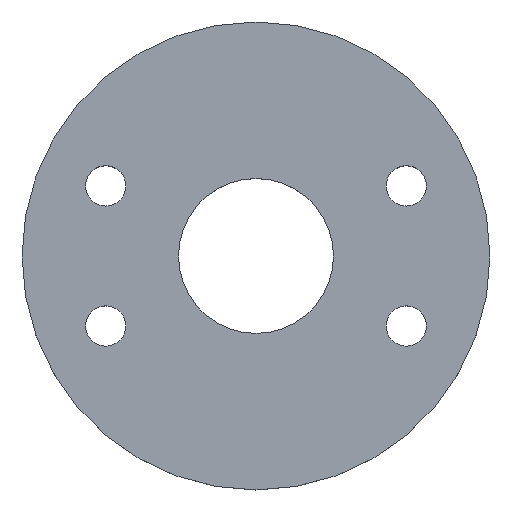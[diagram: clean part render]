
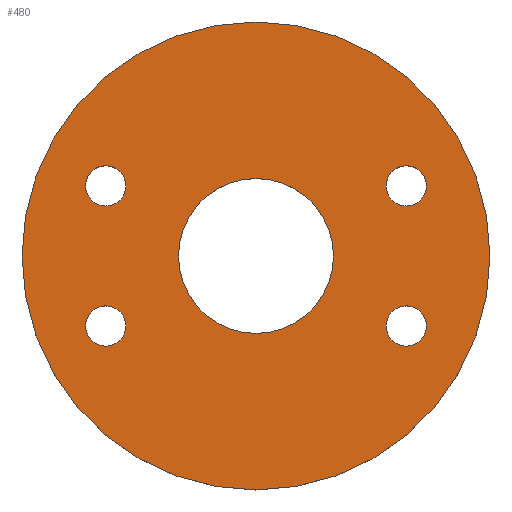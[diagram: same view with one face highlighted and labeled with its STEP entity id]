
A CAD part, top view. The second image highlights one B-rep face of the part: STEP entity #480.
In plain terms, the highlighted planar face has unit normal (0, 0, 1).
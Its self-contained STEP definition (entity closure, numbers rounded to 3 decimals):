
#4 = ORIENTED_EDGE ( 'NONE', *, *, #77, .F. ) ;
#9 = DIRECTION ( 'NONE',  ( 0., 0., 1. ) ) ;
#10 = CARTESIAN_POINT ( 'NONE',  ( -48.487, -22.61, 5. ) ) ;
#13 = EDGE_CURVE ( 'NONE', #504, #38, #376, .T. ) ;
#14 = DIRECTION ( 'NONE',  ( 0., 0., 1. ) ) ;
#17 = DIRECTION ( 'NONE',  ( 0., 0., 1. ) ) ;
#18 = ORIENTED_EDGE ( 'NONE', *, *, #140, .F. ) ;
#21 = DIRECTION ( 'NONE',  ( 0., 0., 1. ) ) ;
#24 = CARTESIAN_POINT ( 'NONE',  ( 0., 0., 5. ) ) ;
#33 = CIRCLE ( 'NONE', #174, 25. ) ;
#34 = ORIENTED_EDGE ( 'NONE', *, *, #477, .F. ) ;
#38 = VERTEX_POINT ( 'NONE', #441 ) ;
#41 = FACE_BOUND ( 'NONE', #207, .T. ) ;
#42 = CIRCLE ( 'NONE', #117, 6.5 ) ;
#46 = CARTESIAN_POINT ( 'NONE',  ( 25., 0., 5. ) ) ;
#50 = CARTESIAN_POINT ( 'NONE',  ( 0., 0., 5. ) ) ;
#52 = ORIENTED_EDGE ( 'NONE', *, *, #13, .F. ) ;
#55 = CIRCLE ( 'NONE', #332, 25. ) ;
#56 = CARTESIAN_POINT ( 'NONE',  ( -48.487, -22.61, 5. ) ) ;
#61 = DIRECTION ( 'NONE',  ( 1., 0., 0. ) ) ;
#64 = ORIENTED_EDGE ( 'NONE', *, *, #307, .F. ) ;
#65 = ORIENTED_EDGE ( 'NONE', *, *, #509, .F. ) ;
#67 = FACE_BOUND ( 'NONE', #326, .T. ) ;
#68 = EDGE_CURVE ( 'NONE', #272, #275, #260, .T. ) ;
#69 = CARTESIAN_POINT ( 'NONE',  ( -54.987, -22.61, 5. ) ) ;
#77 = EDGE_CURVE ( 'NONE', #335, #308, #42, .T. ) ;
#81 = DIRECTION ( 'NONE',  ( 0., 0., 1. ) ) ;
#91 = CARTESIAN_POINT ( 'NONE',  ( 0., 0., 5. ) ) ;
#96 = CIRCLE ( 'NONE', #253, 6.5 ) ;
#107 = DIRECTION ( 'NONE',  ( 1., 0., 0. ) ) ;
#114 = CIRCLE ( 'NONE', #386, 6.5 ) ;
#117 = AXIS2_PLACEMENT_3D ( 'NONE', #175, #21, #357 ) ;
#119 = VERTEX_POINT ( 'NONE', #313 ) ;
#120 = CARTESIAN_POINT ( 'NONE',  ( -48.487, 22.61, 5. ) ) ;
#123 = DIRECTION ( 'NONE',  ( 0., 0., 1. ) ) ;
#128 = AXIS2_PLACEMENT_3D ( 'NONE', #91, #14, #107 ) ;
#140 = EDGE_CURVE ( 'NONE', #381, #388, #33, .T. ) ;
#147 = CARTESIAN_POINT ( 'NONE',  ( 48.487, 22.61, 5. ) ) ;
#154 = FACE_OUTER_BOUND ( 'NONE', #291, .T. ) ;
#164 = DIRECTION ( 'NONE',  ( 1., 0., 0. ) ) ;
#173 = CARTESIAN_POINT ( 'NONE',  ( 0., 0., 5. ) ) ;
#174 = AXIS2_PLACEMENT_3D ( 'NONE', #24, #330, #525 ) ;
#175 = CARTESIAN_POINT ( 'NONE',  ( -48.487, 22.61, 5. ) ) ;
#180 = DIRECTION ( 'NONE',  ( 0., 0., 1. ) ) ;
#181 = FACE_BOUND ( 'NONE', #301, .T. ) ;
#187 = CARTESIAN_POINT ( 'NONE',  ( -75.5, 0., 5. ) ) ;
#193 = CARTESIAN_POINT ( 'NONE',  ( 48.487, -22.61, 5. ) ) ;
#197 = DIRECTION ( 'NONE',  ( -1., 0., 0. ) ) ;
#203 = VERTEX_POINT ( 'NONE', #370 ) ;
#207 = EDGE_LOOP ( 'NONE', ( #18, #474 ) ) ;
#209 = CARTESIAN_POINT ( 'NONE',  ( 0., 0., 5. ) ) ;
#218 = DIRECTION ( 'NONE',  ( 1., 0., 0. ) ) ;
#232 = DIRECTION ( 'NONE',  ( -1., 0., 0. ) ) ;
#240 = CARTESIAN_POINT ( 'NONE',  ( -25., 0., 5. ) ) ;
#244 = AXIS2_PLACEMENT_3D ( 'NONE', #10, #417, #471 ) ;
#253 = AXIS2_PLACEMENT_3D ( 'NONE', #193, #180, #232 ) ;
#258 = AXIS2_PLACEMENT_3D ( 'NONE', #369, #396, #197 ) ;
#260 = CIRCLE ( 'NONE', #128, 75.5 ) ;
#272 = VERTEX_POINT ( 'NONE', #187 ) ;
#275 = VERTEX_POINT ( 'NONE', #328 ) ;
#277 = FACE_BOUND ( 'NONE', #520, .T. ) ;
#281 = EDGE_CURVE ( 'NONE', #119, #203, #114, .T. ) ;
#282 = EDGE_LOOP ( 'NONE', ( #429, #410 ) ) ;
#291 = EDGE_LOOP ( 'NONE', ( #387, #540 ) ) ;
#294 = EDGE_CURVE ( 'NONE', #433, #455, #96, .T. ) ;
#301 = EDGE_LOOP ( 'NONE', ( #4, #34 ) ) ;
#307 = EDGE_CURVE ( 'NONE', #38, #504, #411, .T. ) ;
#308 = VERTEX_POINT ( 'NONE', #444 ) ;
#309 = PLANE ( 'NONE',  #404 ) ;
#313 = CARTESIAN_POINT ( 'NONE',  ( 41.987, 22.61, 5. ) ) ;
#316 = CARTESIAN_POINT ( 'NONE',  ( 48.487, 22.61, 5. ) ) ;
#320 = EDGE_CURVE ( 'NONE', #275, #272, #538, .T. ) ;
#326 = EDGE_LOOP ( 'NONE', ( #65, #424 ) ) ;
#328 = CARTESIAN_POINT ( 'NONE',  ( 75.5, 0., 5. ) ) ;
#330 = DIRECTION ( 'NONE',  ( 0., 0., 1. ) ) ;
#332 = AXIS2_PLACEMENT_3D ( 'NONE', #209, #543, #218 ) ;
#335 = VERTEX_POINT ( 'NONE', #448 ) ;
#339 = DIRECTION ( 'NONE',  ( 0., 0., 1. ) ) ;
#343 = AXIS2_PLACEMENT_3D ( 'NONE', #316, #81, #164 ) ;
#346 = CIRCLE ( 'NONE', #343, 6.5 ) ;
#356 = DIRECTION ( 'NONE',  ( 1., 0., 0. ) ) ;
#357 = DIRECTION ( 'NONE',  ( -1., 0., 0. ) ) ;
#369 = CARTESIAN_POINT ( 'NONE',  ( 48.487, -22.61, 5. ) ) ;
#370 = CARTESIAN_POINT ( 'NONE',  ( 54.987, 22.61, 5. ) ) ;
#374 = AXIS2_PLACEMENT_3D ( 'NONE', #120, #123, #392 ) ;
#376 = CIRCLE ( 'NONE', #244, 6.5 ) ;
#381 = VERTEX_POINT ( 'NONE', #240 ) ;
#386 = AXIS2_PLACEMENT_3D ( 'NONE', #147, #17, #61 ) ;
#387 = ORIENTED_EDGE ( 'NONE', *, *, #68, .T. ) ;
#388 = VERTEX_POINT ( 'NONE', #46 ) ;
#389 = FACE_BOUND ( 'NONE', #282, .T. ) ;
#392 = DIRECTION ( 'NONE',  ( -1., 0., 0. ) ) ;
#396 = DIRECTION ( 'NONE',  ( 0., 0., 1. ) ) ;
#404 = AXIS2_PLACEMENT_3D ( 'NONE', #173, #339, #356 ) ;
#410 = ORIENTED_EDGE ( 'NONE', *, *, #281, .F. ) ;
#411 = CIRCLE ( 'NONE', #498, 6.5 ) ;
#417 = DIRECTION ( 'NONE',  ( 0., 0., 1. ) ) ;
#421 = CARTESIAN_POINT ( 'NONE',  ( 41.987, -22.61, 5. ) ) ;
#424 = ORIENTED_EDGE ( 'NONE', *, *, #294, .F. ) ;
#427 = AXIS2_PLACEMENT_3D ( 'NONE', #50, #438, #528 ) ;
#429 = ORIENTED_EDGE ( 'NONE', *, *, #531, .F. ) ;
#433 = VERTEX_POINT ( 'NONE', #421 ) ;
#438 = DIRECTION ( 'NONE',  ( 0., 0., 1. ) ) ;
#441 = CARTESIAN_POINT ( 'NONE',  ( -41.987, -22.61, 5. ) ) ;
#444 = CARTESIAN_POINT ( 'NONE',  ( -54.987, 22.61, 5. ) ) ;
#448 = CARTESIAN_POINT ( 'NONE',  ( -41.987, 22.61, 5. ) ) ;
#455 = VERTEX_POINT ( 'NONE', #466 ) ;
#465 = CIRCLE ( 'NONE', #258, 6.5 ) ;
#466 = CARTESIAN_POINT ( 'NONE',  ( 54.987, -22.61, 5. ) ) ;
#467 = EDGE_CURVE ( 'NONE', #388, #381, #55, .T. ) ;
#471 = DIRECTION ( 'NONE',  ( 1., 0., 0. ) ) ;
#474 = ORIENTED_EDGE ( 'NONE', *, *, #467, .F. ) ;
#477 = EDGE_CURVE ( 'NONE', #308, #335, #490, .T. ) ;
#480 = ADVANCED_FACE ( 'NONE', ( #181, #277, #67, #389, #154, #41 ), #309, .T. ) ;
#489 = DIRECTION ( 'NONE',  ( 1., 0., 0. ) ) ;
#490 = CIRCLE ( 'NONE', #374, 6.5 ) ;
#498 = AXIS2_PLACEMENT_3D ( 'NONE', #56, #9, #489 ) ;
#504 = VERTEX_POINT ( 'NONE', #69 ) ;
#509 = EDGE_CURVE ( 'NONE', #455, #433, #465, .T. ) ;
#520 = EDGE_LOOP ( 'NONE', ( #64, #52 ) ) ;
#525 = DIRECTION ( 'NONE',  ( 1., 0., 0. ) ) ;
#528 = DIRECTION ( 'NONE',  ( 1., 0., 0. ) ) ;
#531 = EDGE_CURVE ( 'NONE', #203, #119, #346, .T. ) ;
#538 = CIRCLE ( 'NONE', #427, 75.5 ) ;
#540 = ORIENTED_EDGE ( 'NONE', *, *, #320, .T. ) ;
#543 = DIRECTION ( 'NONE',  ( 0., 0., 1. ) ) ;
